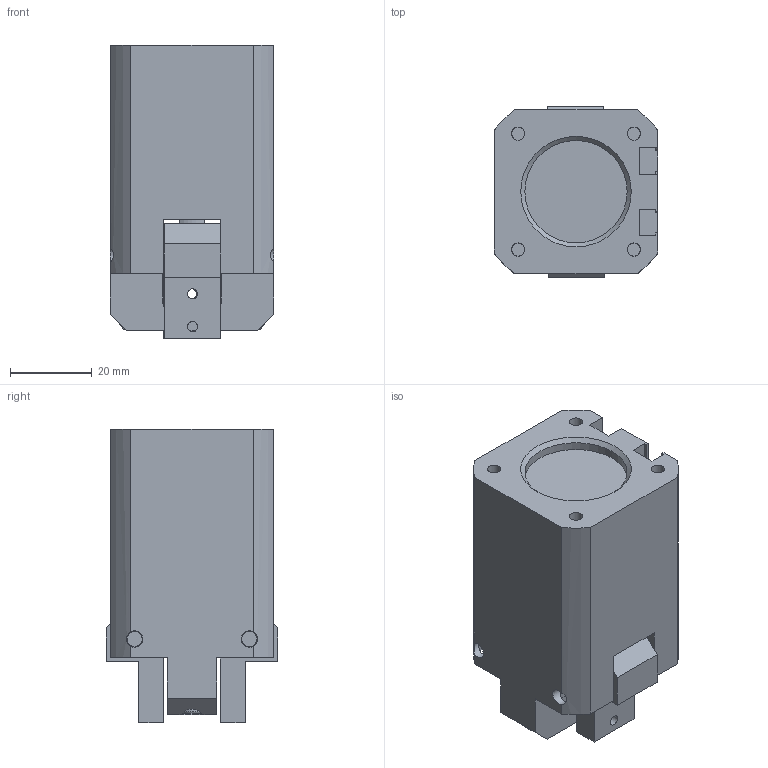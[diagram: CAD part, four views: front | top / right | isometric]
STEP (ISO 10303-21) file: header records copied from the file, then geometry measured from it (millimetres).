
FILE_DESCRIPTION(/* description */ (''),/* implementation_level */ '2;1');
FILE_NAME(/* name */ 'T:\CAD\Standard\Daten\3D-Datenbank\GZ\4 - 3D-CAD-Daten GZ 050-125\GZ050\step-Daten\G-GZ050-IO.stp',/* time_stamp */ '2016-11-10T19:32:28+01:00',/* author */ ('hcanti'),/* organization */ (''),/* preprocessor_version */ 'ST-DEVELOPER v15.2',/* originating_system */ 'Autodesk Inventor 2014',/* authorisation */ '');
FILE_SCHEMA (('CONFIG_CONTROL_DESIGN'));
Length unit declared in the file: millimetre
Products named in the file (1): Bauteil3
Bounding box: 40 x 42 x 71.8 mm (x, y, z)
Volume: 77875.5 mm3; surface area: 31063.1 mm2
Topology: 1 solids, 20 shells, 326 faces, 809 edges, 534 vertices
Faces by surface type: plane 177, cylinder 93, cone 31, torus 25
Full cylindrical faces by diameter (mm): 2.459 x6, 3 x2, 3.2 x2, 3.242 x5, 4 x16, 4.134 x2, 4.5 x4, 4.917 x1, 5.5 x2, 6 x1, 6.4 x1, 6.5 x2, 7 x4, 8 x6, 12 x4, 14 x1, 15 x2, 17 x2, 20 x1, 23 x2, 23.6 x2, 25 x1, 27 x2, 30 x6
Entity records: 9080 total; most frequent: CARTESIAN_POINT 1821, DIRECTION 1422, ORIENTED_EDGE 1194, EDGE_CURVE 596, AXIS2_PLACEMENT_3D 549, EDGE_LOOP 536, VERTEX_POINT 458, STYLED_ITEM 327
